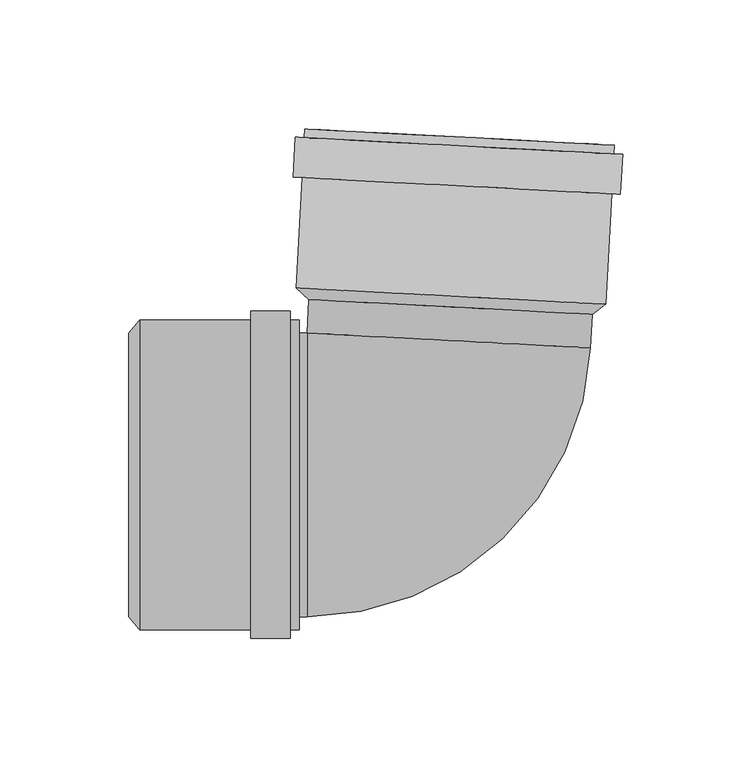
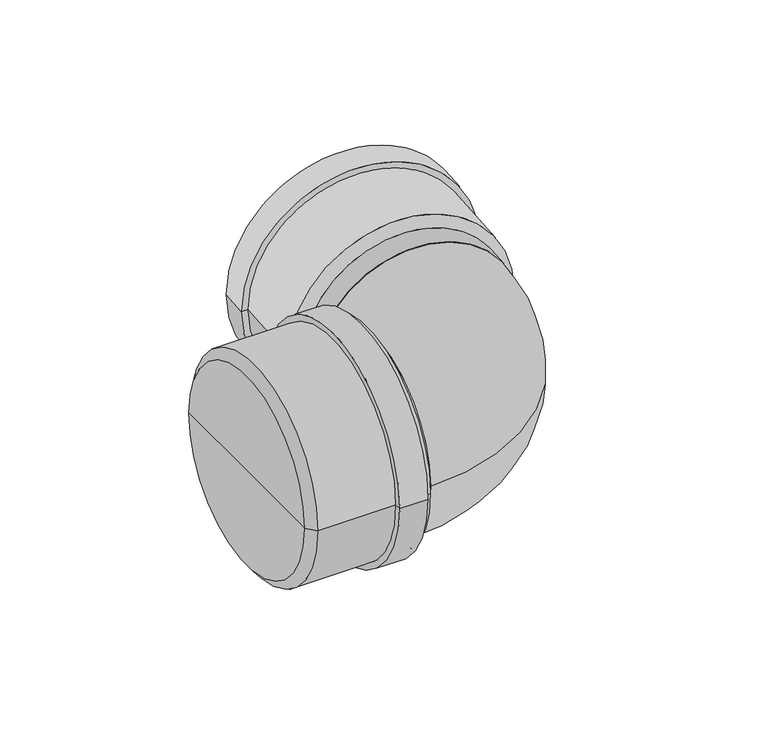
"""IFC4 building model written with IfcOpenShell, lengths in millimetres: pipe fitting geometry, pf_KGB : pf_KGB."""

from ifc_helpers import new_model, si_unit, point, frame, origin, origin_2d, place, context, project, spatial, polyline, circle_curve, ellipse_curve, trimmed, segment, composite_curve, outline, extrude, source, transform, mapped, element, save
from ifc_brep_helpers import plane_surface, cylinder_surface, revolved_surface, advanced_brep


def pipe_fitting_0191ecb1(model_context):
    return source(origin(), model_context, "Body", "SolidModel", [
        advanced_brep(
        [(58.3369288, 62.2321681, 0.0), (-51.5123201, 67.9891233, 0.0), (-56.3855197, 72.4502807, 0.0), (63.6497504, 66.1594987, 0.0), (3.4123043, 65.1106457, 0.0), (66.8841125, 127.874804, 0.0), (-53.1511576, 134.1655859, 0.0), (-48.058147, 133.8986726, 0.0), (61.7911019, 128.1417174, 0.0), (-53.3290998, 130.7702455, 0.0), (66.7061702, 124.4794636, 0.0), (-56.7244402, 130.9481878, 0.0), (70.1015107, 124.3015213, 0.0), (-57.5356476, 115.46943, 0.0), (69.2903033, 108.8227635, 0.0), (-54.1403072, 115.2914877, 0.0), (65.8949629, 109.0007058, 0.0), (58.5567398, 66.4264121, 0.0), (-51.292509, 72.1833673, 0.0), (3.6321154, 69.3048897, 0.0)],
        [
            (0, 1, circle_curve(frame((3.4123043, 65.1106457, 0.0), z_axis=(0.052335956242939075, 0.9986295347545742, 0.0), x_axis=(-0.9986295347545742, 0.052335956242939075, 0.0)), 55.0)),
            (1, 2),
            (2, 3, circle_curve(frame((3.6321154, 69.3048897, 0.0), z_axis=(-0.052335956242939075, -0.9986295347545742, 0.0), x_axis=(-0.9986295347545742, 0.052335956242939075, 0.0)), 60.1)),
            (3, 0),
            (1, 0, circle_curve(frame((3.4123043, 65.1106457, 0.0), z_axis=(0.052335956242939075, 0.9986295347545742, 0.0), x_axis=(-0.9986295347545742, 0.052335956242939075, 0.0)), 55.0)),
            (3, 2, circle_curve(frame((3.6321154, 69.3048897, 0.0), z_axis=(-0.052335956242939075, -0.9986295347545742, 0.0), x_axis=(-0.9986295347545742, 0.052335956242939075, 0.0)), 60.1)),
            (4, 1),
            (0, 4),
            (5, 6, circle_curve(frame((6.8664775, 131.020195, 0.0), z_axis=(0.052335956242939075, 0.9986295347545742, 0.0), x_axis=(-0.9986295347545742, 0.052335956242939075, 0.0)), 60.1)),
            (6, 7),
            (7, 8, circle_curve(frame((6.8664775, 131.020195, 0.0), z_axis=(-0.052335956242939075, -0.9986295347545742, 0.0), x_axis=(-0.9986295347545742, 0.052335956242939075, 0.0)), 55.0)),
            (8, 5),
            (9, 10, circle_curve(frame((6.6885352, 127.6248545, 0.0), z_axis=(0.052335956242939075, 0.9986295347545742, 0.0), x_axis=(-0.9986295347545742, 0.052335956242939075, 0.0)), 60.1)),
            (10, 5),
            (5, 6, circle_curve(frame((6.8664775, 131.020195, 0.0), z_axis=(-0.052335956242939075, -0.9986295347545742, 0.0), x_axis=(-0.9986295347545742, 0.052335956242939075, 0.0)), 60.1)),
            (6, 9),
            (11, 12, circle_curve(frame((6.6885352, 127.6248545, 0.0), z_axis=(0.052335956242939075, 0.9986295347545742, 0.0), x_axis=(-0.9986295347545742, 0.052335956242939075, 0.0)), 63.5)),
            (12, 10),
            (9, 11),
            (13, 14, circle_curve(frame((5.8773279, 112.1460968, 0.0), z_axis=(0.052335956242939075, 0.9986295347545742, 0.0), x_axis=(-0.9986295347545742, 0.052335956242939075, 0.0)), 63.5)),
            (14, 12),
            (11, 13),
            (15, 16, circle_curve(frame((5.8773279, 112.1460968, 0.0), z_axis=(0.052335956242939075, 0.9986295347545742, 0.0), x_axis=(-0.9986295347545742, 0.052335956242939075, 0.0)), 60.1)),
            (16, 14),
            (13, 15),
            (8, 7, circle_curve(frame((6.8664775, 131.020195, 0.0), z_axis=(-0.052335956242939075, -0.9986295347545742, 0.0), x_axis=(-0.9986295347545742, 0.052335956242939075, 0.0)), 55.0)),
            (10, 9, circle_curve(frame((6.6885352, 127.6248545, 0.0), z_axis=(0.052335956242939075, 0.9986295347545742, 0.0), x_axis=(-0.9986295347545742, 0.052335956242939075, 0.0)), 60.1)),
            (12, 11, circle_curve(frame((6.6885352, 127.6248545, 0.0), z_axis=(0.052335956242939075, 0.9986295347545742, 0.0), x_axis=(-0.9986295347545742, 0.052335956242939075, 0.0)), 63.5)),
            (14, 13, circle_curve(frame((5.8773279, 112.1460968, 0.0), z_axis=(0.052335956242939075, 0.9986295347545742, 0.0), x_axis=(-0.9986295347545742, 0.052335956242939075, 0.0)), 63.5)),
            (16, 15, circle_curve(frame((5.8773279, 112.1460968, 0.0), z_axis=(0.052335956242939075, 0.9986295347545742, 0.0), x_axis=(-0.9986295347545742, 0.052335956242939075, 0.0)), 60.1)),
            (2, 15),
            (16, 3),
            (17, 18, circle_curve(frame((3.6321154, 69.3048897, 0.0), z_axis=(0.052335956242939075, 0.9986295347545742, 0.0), x_axis=(-0.9986295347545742, 0.052335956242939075, 0.0)), 55.0)),
            (18, 19),
            (19, 17),
            (18, 17, circle_curve(frame((3.6321154, 69.3048897, 0.0), z_axis=(0.052335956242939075, 0.9986295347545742, 0.0), x_axis=(-0.9986295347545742, 0.052335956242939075, 0.0)), 55.0)),
            (7, 18),
            (17, 8),
        ],
        [
            revolved_surface(polyline([(-56.3855197, 72.4502807, 0.0), (-51.5123201, 67.9891233, 0.0)]), (3.4123043, 65.1106457, 0.0), (-0.052335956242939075, -0.9986295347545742, 0.0)),
            plane_surface(frame((3.4123043, 65.1106457, 0.0), z_axis=(-0.052335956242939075, -0.9986295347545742, 0.0), x_axis=(-0.9986295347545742, 0.052335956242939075, 0.0))),
            plane_surface(frame((6.8664775, 131.020195, 0.0), z_axis=(0.052335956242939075, 0.9986295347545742, 0.0), x_axis=(-0.9986295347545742, 0.052335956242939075, 0.0))),
            cylinder_surface(frame((3.4123043, 65.1106457, 0.0), z_axis=(-0.052335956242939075, -0.9986295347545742, 0.0), x_axis=(-0.9986295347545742, 0.052335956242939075, 0.0)), 60.1),
            plane_surface(frame((6.6885352, 127.6248545, 0.0), z_axis=(0.052335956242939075, 0.9986295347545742, 0.0), x_axis=(-0.9986295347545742, 0.052335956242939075, 0.0))),
            cylinder_surface(frame((3.4123043, 65.1106457, 0.0), z_axis=(-0.052335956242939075, -0.9986295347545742, 0.0), x_axis=(-0.9986295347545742, 0.052335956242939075, 0.0)), 63.5),
            plane_surface(frame((5.8773279, 112.1460968, 0.0), z_axis=(-0.052335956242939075, -0.9986295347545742, 0.0), x_axis=(-0.9986295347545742, 0.052335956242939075, 0.0))),
            plane_surface(frame((3.6321154, 69.3048897, 0.0), z_axis=(0.052335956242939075, 0.9986295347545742, 0.0), x_axis=(-0.9986295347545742, 0.052335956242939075, 0.0))),
            revolved_surface(polyline([(-51.292509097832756, 72.18336729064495, 0.0), (-48.05814699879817, 133.89867259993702, 0.0)]), (3.4123043, 65.1106457, 0.0), (-0.052335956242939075, -0.9986295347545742, 0.0)),
        ],
        [
            (0, [[1, 2, 3, 4]]),
            (0, [[5, -4, 6, -2]]),
            (1, [[7, -1, 8]]),
            (1, [[-8, -5, -7]]),
            (2, [[9, 10, 11, 12]]),
            (3, [[13, 14, 15, 16]]),
            (4, [[17, 18, -13, 19]]),
            (5, [[20, 21, -17, 22]]),
            (6, [[23, 24, -20, 25]]),
            (2, [[-15, -12, 26, -10]]),
            (3, [[27, -16, -9, -14]]),
            (4, [[28, -19, -27, -18]]),
            (5, [[29, -22, -28, -21]]),
            (6, [[30, -25, -29, -24]]),
            (3, [[-3, 31, -30, 32]]),
            (3, [[-6, -32, -23, -31]]),
            (7, [[33, 34, 35]]),
            (7, [[36, -35, -34]]),
            (8, [[-11, 37, -33, 38]]),
            (8, [[-26, -38, -36, -37]]),
        ],
    ),
        advanced_brep(
        [(-121.2, -55.0, 0.0), (-121.2, 55.0, 0.0), (-117.0, 60.1, 0.0), (-117.0, -60.1, 0.0), (-121.2, 0.0, 0.0), (-55.2, -60.1, 0.0), (-55.2, 60.1, 0.0), (-55.2, 55.0, 0.0), (-55.2, -55.0, 0.0), (-58.6, 60.1, 0.0), (-58.6, -60.1, 0.0), (-58.6, 63.5, 0.0), (-58.6, -63.5, 0.0), (-74.1, 63.5, 0.0), (-74.1, -63.5, 0.0), (-74.1, 60.1, 0.0), (-74.1, -60.1, 0.0), (-117.0, -55.0, 0.0), (-117.0, 55.0, 0.0), (-117.0, 0.0, 0.0)],
        [
            (0, 1, circle_curve(frame((-121.2, 0.0, 0.0), z_axis=(1.0, 0.0, 0.0), x_axis=(0.0, 1.0, 0.0)), 55.0)),
            (1, 2),
            (2, 3, circle_curve(frame((-117.0, 0.0, 0.0), z_axis=(-1.0, 0.0, 0.0), x_axis=(0.0, 1.0, 0.0)), 60.1)),
            (3, 0),
            (1, 0, circle_curve(frame((-121.2, 0.0, 0.0), z_axis=(1.0, 0.0, 0.0), x_axis=(0.0, 1.0, 0.0)), 55.0)),
            (3, 2, circle_curve(frame((-117.0, 0.0, 0.0), z_axis=(-1.0, 0.0, 0.0), x_axis=(0.0, 1.0, 0.0)), 60.1)),
            (4, 1),
            (0, 4),
            (5, 6, circle_curve(frame((-55.2, 0.0, 0.0), z_axis=(1.0, 0.0, 0.0), x_axis=(0.0, 1.0, 0.0)), 60.1)),
            (6, 7),
            (7, 8, circle_curve(frame((-55.2, 0.0, 0.0), z_axis=(-1.0, 0.0, 0.0), x_axis=(0.0, 1.0, 0.0)), 55.0)),
            (8, 5),
            (9, 10, circle_curve(frame((-58.6, 0.0, 0.0), z_axis=(1.0, 0.0, 0.0), x_axis=(0.0, 1.0, 0.0)), 60.1)),
            (10, 5),
            (5, 6, circle_curve(frame((-55.2, 0.0, 0.0), z_axis=(-1.0, 0.0, 0.0), x_axis=(0.0, 1.0, 0.0)), 60.1)),
            (6, 9),
            (11, 12, circle_curve(frame((-58.6, 0.0, 0.0), z_axis=(1.0, 0.0, 0.0), x_axis=(0.0, 1.0, 0.0)), 63.5)),
            (12, 10),
            (9, 11),
            (13, 14, circle_curve(frame((-74.1, 0.0, 0.0), z_axis=(1.0, 0.0, 0.0), x_axis=(0.0, 1.0, 0.0)), 63.5)),
            (14, 12),
            (11, 13),
            (15, 16, circle_curve(frame((-74.1, 0.0, 0.0), z_axis=(1.0, 0.0, 0.0), x_axis=(0.0, 1.0, 0.0)), 60.1)),
            (16, 14),
            (13, 15),
            (8, 7, circle_curve(frame((-55.2, 0.0, 0.0), z_axis=(-1.0, 0.0, 0.0), x_axis=(0.0, 1.0, 0.0)), 55.0)),
            (10, 9, circle_curve(frame((-58.6, 0.0, 0.0), z_axis=(1.0, 0.0, 0.0), x_axis=(0.0, 1.0, 0.0)), 60.1)),
            (12, 11, circle_curve(frame((-58.6, 0.0, 0.0), z_axis=(1.0, 0.0, 0.0), x_axis=(0.0, 1.0, 0.0)), 63.5)),
            (14, 13, circle_curve(frame((-74.1, 0.0, 0.0), z_axis=(1.0, 0.0, 0.0), x_axis=(0.0, 1.0, 0.0)), 63.5)),
            (16, 15, circle_curve(frame((-74.1, 0.0, 0.0), z_axis=(1.0, 0.0, 0.0), x_axis=(0.0, 1.0, 0.0)), 60.1)),
            (2, 15),
            (16, 3),
            (17, 18, circle_curve(frame((-117.0, 0.0, 0.0), z_axis=(1.0, 0.0, 0.0), x_axis=(0.0, 1.0, 0.0)), 55.0)),
            (18, 19),
            (19, 17),
            (18, 17, circle_curve(frame((-117.0, 0.0, 0.0), z_axis=(1.0, 0.0, 0.0), x_axis=(0.0, 1.0, 0.0)), 55.0)),
            (7, 18),
            (17, 8),
        ],
        [
            revolved_surface(polyline([(-117.0, 60.1, 0.0), (-121.2, 55.0, 0.0)]), (-121.2, 0.0, 0.0), (-1.0, 0.0, 0.0)),
            plane_surface(frame((-121.2, 0.0, 0.0), z_axis=(-1.0, 0.0, 0.0), x_axis=(0.0, 1.0, 0.0))),
            plane_surface(frame((-55.2, 0.0, 0.0), z_axis=(1.0, 0.0, 0.0), x_axis=(0.0, 1.0, 0.0))),
            cylinder_surface(frame((-121.2, 0.0, 0.0), z_axis=(-1.0, 0.0, 0.0), x_axis=(0.0, 1.0, 0.0)), 60.1),
            plane_surface(frame((-58.6, 0.0, 0.0), z_axis=(1.0, 0.0, 0.0), x_axis=(0.0, 1.0, 0.0))),
            cylinder_surface(frame((-121.2, 0.0, 0.0), z_axis=(-1.0, 0.0, 0.0), x_axis=(0.0, 1.0, 0.0)), 63.5),
            plane_surface(frame((-74.1, 0.0, 0.0), z_axis=(-1.0, 0.0, 0.0), x_axis=(0.0, 1.0, 0.0))),
            plane_surface(frame((-117.0, 0.0, 0.0), z_axis=(1.0, 0.0, 0.0), x_axis=(0.0, 1.0, 0.0))),
            revolved_surface(polyline([(-117.0, 55.0, 0.0), (-55.2, 55.0, 0.0)]), (-121.2, 0.0, 0.0), (-1.0, 0.0, 0.0)),
        ],
        [
            (0, [[1, 2, 3, 4]]),
            (0, [[5, -4, 6, -2]]),
            (1, [[7, -1, 8]]),
            (1, [[-8, -5, -7]]),
            (2, [[9, 10, 11, 12]]),
            (3, [[13, 14, 15, 16]]),
            (4, [[17, 18, -13, 19]]),
            (5, [[20, 21, -17, 22]]),
            (6, [[23, 24, -20, 25]]),
            (2, [[-15, -12, 26, -10]]),
            (3, [[27, -16, -9, -14]]),
            (4, [[28, -19, -27, -18]]),
            (5, [[29, -22, -28, -21]]),
            (6, [[30, -25, -29, -24]]),
            (3, [[-3, 31, -30, 32]]),
            (3, [[-6, -32, -23, -31]]),
            (7, [[33, 34, 35]]),
            (7, [[36, -35, -34]]),
            (8, [[-11, 37, -33, 38]]),
            (8, [[-26, -38, -36, -37]]),
        ],
    ),
        extrude(outline(composite_curve([segment(trimmed(circle_curve(origin_2d(), 55.0), [point((0.0, -55.0))], [point((0.0, 55.0000001))], False, "CARTESIAN"), True, "CONTINUOUS"), segment(trimmed(circle_curve(origin_2d(), 55.0), [point((0.0, 55.0000001))], [point((0.0, -55.0))], False, "CARTESIAN"), True, "CONTINUOUS")], self_intersect=False)), frame((2.7315732, 52.1215224, 0.0), z_axis=(0.052335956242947, 0.9986295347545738, 0.0), x_axis=(0.0, 0.0, 1.0)), (0.0, 0.0, 1.0), 13.0069488),
        extrude(outline(composite_curve([segment(trimmed(circle_curve(origin_2d(), 55.0), [point((-55.0, 0.0))], [point((55.0, 0.0))], False, "CARTESIAN"), True, "CONTINUOUS"), segment(trimmed(circle_curve(origin_2d(), 55.0), [point((55.0, 0.0))], [point((-55.0, 0.0))], False, "CARTESIAN"), True, "CONTINUOUS")], self_intersect=False)), frame((-117.0, 0.0, 0.0), z_axis=(1.0, 0.0, 0.0), x_axis=(0.0, 1.0, 0.0)), (0.0, 0.0, 1.0), 64.8069488),
        advanced_brep(
        [(-52.1930512, -55.0, 0.0), (-52.1930512, 55.0, 0.0), (57.6561977, 49.2430448, 0.0)],
        [
            (0, 1, circle_curve(frame((-52.1930512, 0.0, 0.0), z_axis=(-1.0, 0.0, 0.0), x_axis=(0.0, 1.0, 0.0)), 55.0)),
            (1, 0, circle_curve(frame((-52.1930512, 0.0, 0.0), z_axis=(-1.0, 0.0, 0.0), x_axis=(0.0, 1.0, 0.0)), 55.0)),
            (2, 1, circle_curve(frame((2.7315732, 52.1215224, 0.0), z_axis=(0.05233595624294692, 0.9986295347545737, 0.0), x_axis=(-0.9986295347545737, 0.05233595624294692, 0.0)), 55.0)),
            (1, 2, circle_curve(frame((2.7315732, 52.1215224, 0.0), z_axis=(0.05233595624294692, 0.9986295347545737, 0.0), x_axis=(-0.9986295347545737, 0.05233595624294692, 0.0)), 55.0)),
            (2, 0, circle_curve(frame((-52.1930512, 55.0, 0.0), z_axis=(0.0, 0.0, -1.0), x_axis=(0.0, -1.0, 0.0)), 110.0)),
        ],
        [
            plane_surface(frame((-52.1930512, 55.0, -14.8), z_axis=(-1.0, 0.0, 0.0), x_axis=(0.0, -1.0, 0.0))),
            plane_surface(frame((-52.1930512, 55.0, -14.8), z_axis=(0.052335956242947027, 0.9986295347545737, 0.0), x_axis=(0.9986295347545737, -0.052335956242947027, 0.0))),
            revolved_surface(trimmed(ellipse_curve(frame((-52.1930512, 0.0, 0.0), z_axis=(1.0, 0.0, 0.0), x_axis=(0.0, 1.0, 0.0)), 55.0, 55.0), [point((-52.1930512, -55.0, 0.0))], [point((-52.1930512, 55.0, 0.0))], True, "CARTESIAN"), (-52.1930512, 55.0, -14.8), (0.0, 0.0, -1.0)),
            revolved_surface(trimmed(ellipse_curve(frame((-52.1930512, 0.0, 0.0), z_axis=(1.0, 0.0, 0.0), x_axis=(0.0, 1.0, 0.0)), 55.0, 55.0), [point((-52.1930512, 55.0, 0.0))], [point((-52.1930512, -55.0, 0.0))], True, "CARTESIAN"), (-52.1930512, 55.0, -14.8), (0.0, 0.0, -1.0)),
        ],
        [
            (0, [[1, 2]]),
            (1, [[3, 4]]),
            (2, [[5, -2, -3]]),
            (3, [[-1, -5, -4]]),
        ],
    ),
    ])


if __name__ == "__main__":
    model = new_model("IFC4")
    model_context = context("Model", 3, world=origin())
    ifc_project = project(units=[si_unit("LENGTHUNIT", "METRE", prefix="MILLI")], contexts=[model_context])
    site = spatial("IfcSite", under=ifc_project)
    building = spatial("IfcBuilding", under=site)
    placement = place(None, origin())
    pipe_fitting_shape = pipe_fitting_0191ecb1(model_context)
    element("IfcPipeFitting", 1, ObjectType="pf_KGB : pf_KGB", at=placement, inside=building, context=model_context, shape_type="MappedRepresentation", body=[
        mapped(pipe_fitting_shape, transform((0.0, 0.0, 0.0), x_axis=(1.0, 0.0, 0.0), y_axis=(0.0, 1.0, 0.0), z_axis=(0.0, 0.0, 1.0))),
    ])
    save(model, "model.ifc")
